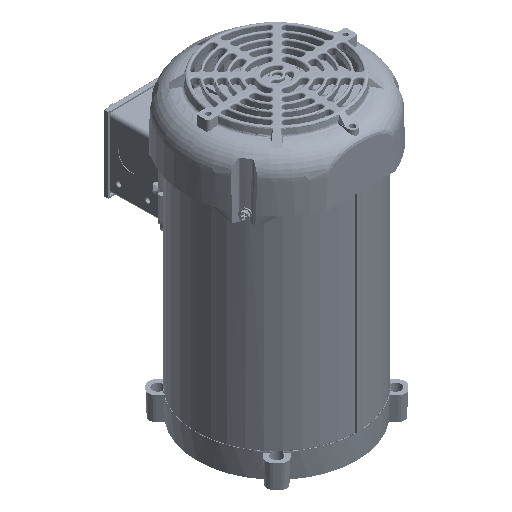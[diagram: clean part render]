
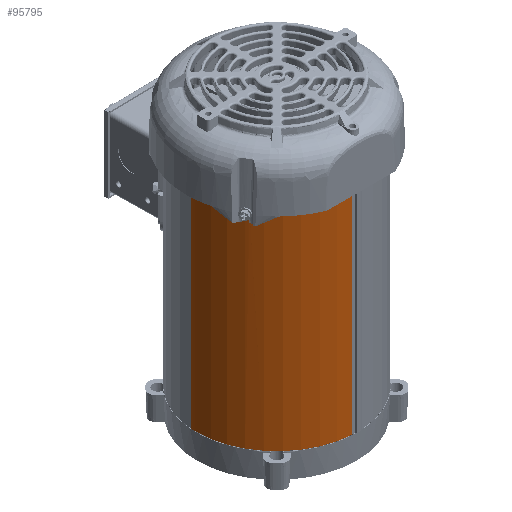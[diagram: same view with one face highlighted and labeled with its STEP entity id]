
A CAD part, isometric view. The second image highlights one B-rep face of the part: STEP entity #95795.
In plain terms, the highlighted cylindrical face has radius 71.369 mm (diameter 142.738 mm), a partial arc.
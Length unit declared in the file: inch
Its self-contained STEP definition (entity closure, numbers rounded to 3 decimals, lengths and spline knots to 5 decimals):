
#426 = CARTESIAN_POINT ( 'NONE',  ( -0.18377, -2.80378, 10.5216 ) ) ;
#2760 = VERTEX_POINT ( 'NONE', #102909 ) ;
#3604 = CARTESIAN_POINT ( 'NONE',  ( -2.80378, 0.18377, 2.9466 ) ) ;
#4349 = DIRECTION ( 'NONE',  ( -0.998, 0.065, 0. ) ) ;
#4501 = B_SPLINE_CURVE_WITH_KNOTS ( 'NONE', 3,
 ( #148445, #109347, #108766, #150237, #150849, #40261, #40845, #149656, #67325, #54732, #26966, #55320, #53537, #136420, #164074, #81688, #28139, #96672, #123192, #94288, #95502, #136983, #68486 ),
 .UNSPECIFIED., .F., .F.,
 ( 4, 2, 2, 2, 2, 2, 2, 1, 2, 2, 2, 4 ),
 ( 0., 0.0625, 0.09375, 0.125, 0.1875, 0.25, 0.3125, 0.34375, 0.35938, 0.375, 0.4375, 0.5 ),
 .UNSPECIFIED. ) ;
#6578 = CARTESIAN_POINT ( 'NONE',  ( 0., 0., 10.4266 ) ) ;
#8806 = DIRECTION ( 'NONE',  ( 0., 0., -1. ) ) ;
#9105 = AXIS2_PLACEMENT_3D ( 'NONE', #36179, #91494, #4349 ) ;
#9941 = CARTESIAN_POINT ( 'NONE',  ( -2.46288, -1.35248, 10.27384 ) ) ;
#11245 = VERTEX_POINT ( 'NONE', #146776 ) ;
#11753 = CARTESIAN_POINT ( 'NONE',  ( -2.41909, -1.42933, 10.2827 ) ) ;
#13509 = VERTEX_POINT ( 'NONE', #55822 ) ;
#20109 = VECTOR ( 'NONE', #138464, 39.37008 ) ;
#20783 = CARTESIAN_POINT ( 'NONE',  ( -2.46985, -1.33971, 10.24869 ) ) ;
#22793 = EDGE_CURVE ( 'NONE', #30298, #155535, #72752, .T. ) ;
#23123 = CARTESIAN_POINT ( 'NONE',  ( -2.40581, -1.45157, 10.2316 ) ) ;
#26490 = CIRCLE ( 'NONE', #96347, 2.8098 ) ;
#26966 = CARTESIAN_POINT ( 'NONE',  ( -2.43436, -1.40319, 10.16786 ) ) ;
#28139 = CARTESIAN_POINT ( 'NONE',  ( -2.45975, -1.35817, 10.18323 ) ) ;
#30298 = VERTEX_POINT ( 'NONE', #152128 ) ;
#35210 = CARTESIAN_POINT ( 'NONE',  ( -2.46658, -1.34573, 10.26364 ) ) ;
#36179 = CARTESIAN_POINT ( 'NONE',  ( 0., 0., 25.23668 ) ) ;
#40261 = CARTESIAN_POINT ( 'NONE',  ( -2.41263, -1.44021, 10.19276 ) ) ;
#40845 = CARTESIAN_POINT ( 'NONE',  ( -2.41411, -1.43773, 10.18941 ) ) ;
#41365 = EDGE_LOOP ( 'NONE', ( #66782, #63076 ) ) ;
#44132 = ORIENTED_EDGE ( 'NONE', *, *, #125567, .F. ) ;
#48076 = DIRECTION ( 'NONE',  ( 0., 0., -1. ) ) ;
#48266 = CARTESIAN_POINT ( 'NONE',  ( -2.80378, 0.18377, 10.4266 ) ) ;
#50686 = AXIS2_PLACEMENT_3D ( 'NONE', #6578, #48076, #114807 ) ;
#51460 = CARTESIAN_POINT ( 'NONE',  ( -2.44334, -1.3875, 10.29535 ) ) ;
#53102 = FACE_OUTER_BOUND ( 'NONE', #60165, .T. ) ;
#53205 = VERTEX_POINT ( 'NONE', #48266 ) ;
#53418 = DIRECTION ( 'NONE',  ( 0., 0., -1. ) ) ;
#53537 = CARTESIAN_POINT ( 'NONE',  ( -2.44738, -1.38036, 10.16938 ) ) ;
#54732 = CARTESIAN_POINT ( 'NONE',  ( -2.43023, -1.41032, 10.1694 ) ) ;
#55320 = CARTESIAN_POINT ( 'NONE',  ( -2.44328, -1.3876, 10.16786 ) ) ;
#55822 = CARTESIAN_POINT ( 'NONE',  ( -0.18377, -2.80378, 10.4266 ) ) ;
#60165 = EDGE_LOOP ( 'NONE', ( #154671, #87275, #92813, #119578, #143257, #44132 ) ) ;
#62319 = CARTESIAN_POINT ( 'NONE',  ( -2.47062, -1.33829, 10.24045 ) ) ;
#63076 = ORIENTED_EDGE ( 'NONE', *, *, #22793, .T. ) ;
#64098 = DIRECTION ( 'NONE',  ( 1., 0., 0. ) ) ;
#65848 = CARTESIAN_POINT ( 'NONE',  ( -2.45826, -1.36088, 10.28306 ) ) ;
#66782 = ORIENTED_EDGE ( 'NONE', *, *, #134259, .T. ) ;
#66833 = DIRECTION ( 'NONE',  ( 0., 0., 1. ) ) ;
#67325 = CARTESIAN_POINT ( 'NONE',  ( -2.42253, -1.42351, 10.17556 ) ) ;
#68486 = CARTESIAN_POINT ( 'NONE',  ( -2.47062, -1.3383, 10.23154 ) ) ;
#72752 = B_SPLINE_CURVE_WITH_KNOTS ( 'NONE', 3,
 ( #144626, #62319, #20783, #117581, #35210, #92266, #9941, #65848, #78442, #174607, #51460, #94012, #134947, #106074, #161996, #11753, #147554, #106656, #121735, #23123 ),
 .UNSPECIFIED., .F., .F.,
 ( 4, 2, 2, 2, 2, 2, 2, 2, 2, 4 ),
 ( 0.5, 0.5625, 0.59375, 0.625, 0.6875, 0.75, 0.8125, 0.84375, 0.875, 1. ),
 .UNSPECIFIED. ) ;
#73626 = VERTEX_POINT ( 'NONE', #3604 ) ;
#78442 = CARTESIAN_POINT ( 'NONE',  ( -2.45485, -1.36702, 10.28767 ) ) ;
#80025 = CARTESIAN_POINT ( 'NONE',  ( 0., 0., 2.9466 ) ) ;
#80978 = CYLINDRICAL_SURFACE ( 'NONE', #9105, 2.8098 ) ;
#81688 = CARTESIAN_POINT ( 'NONE',  ( -2.45814, -1.36108, 10.18056 ) ) ;
#83149 = CARTESIAN_POINT ( 'NONE',  ( -2.80378, 0.18377, 25.23668 ) ) ;
#83240 = AXIS2_PLACEMENT_3D ( 'NONE', #80025, #66833, #176172 ) ;
#87035 = AXIS2_PLACEMENT_3D ( 'NONE', #98939, #111618, #166946 ) ;
#87275 = ORIENTED_EDGE ( 'NONE', *, *, #137324, .T. ) ;
#89653 = VERTEX_POINT ( 'NONE', #155412 ) ;
#91352 = CIRCLE ( 'NONE', #87035, 2.8098 ) ;
#91494 = DIRECTION ( 'NONE',  ( 0., 0., -1. ) ) ;
#92266 = CARTESIAN_POINT ( 'NONE',  ( -2.46425, -1.34998, 10.27053 ) ) ;
#92813 = ORIENTED_EDGE ( 'NONE', *, *, #114013, .T. ) ;
#93300 = CARTESIAN_POINT ( 'NONE',  ( -2.40581, -1.45157, 10.2316 ) ) ;
#94012 = CARTESIAN_POINT ( 'NONE',  ( -2.43444, -1.40306, 10.29535 ) ) ;
#94288 = CARTESIAN_POINT ( 'NONE',  ( -2.46674, -1.34543, 10.19937 ) ) ;
#95502 = CARTESIAN_POINT ( 'NONE',  ( -2.46984, -1.33973, 10.21448 ) ) ;
#95795 = ADVANCED_FACE ( 'NONE', ( #117564, #53102 ), #80978, .T. ) ;
#96347 = AXIS2_PLACEMENT_3D ( 'NONE', #146422, #8806, #64098 ) ;
#96672 = CARTESIAN_POINT ( 'NONE',  ( -2.46051, -1.35678, 10.18462 ) ) ;
#98092 = CIRCLE ( 'NONE', #83240, 2.8098 ) ;
#98939 = CARTESIAN_POINT ( 'NONE',  ( 0., 0., 2.9466 ) ) ;
#102909 = CARTESIAN_POINT ( 'NONE',  ( -0.18377, -2.80378, 2.9466 ) ) ;
#103294 = LINE ( 'NONE', #426, #169929 ) ;
#106074 = CARTESIAN_POINT ( 'NONE',  ( -2.42449, -1.42015, 10.28922 ) ) ;
#106656 = CARTESIAN_POINT ( 'NONE',  ( -2.40921, -1.44598, 10.26451 ) ) ;
#107519 = CIRCLE ( 'NONE', #50686, 2.8098 ) ;
#108766 = CARTESIAN_POINT ( 'NONE',  ( -2.40661, -1.45024, 10.2146 ) ) ;
#109347 = CARTESIAN_POINT ( 'NONE',  ( -2.40579, -1.4516, 10.22278 ) ) ;
#111618 = DIRECTION ( 'NONE',  ( 0., 0., 1. ) ) ;
#113468 = EDGE_CURVE ( 'NONE', #89653, #2760, #91352, .T. ) ;
#114013 = EDGE_CURVE ( 'NONE', #53205, #73626, #166437, .T. ) ;
#114807 = DIRECTION ( 'NONE',  ( 1., 0., 0. ) ) ;
#117413 = EDGE_CURVE ( 'NONE', #13509, #11245, #107519, .T. ) ;
#117564 = FACE_BOUND ( 'NONE', #41365, .T. ) ;
#117581 = CARTESIAN_POINT ( 'NONE',  ( -2.46754, -1.34396, 10.26003 ) ) ;
#119578 = ORIENTED_EDGE ( 'NONE', *, *, #133385, .T. ) ;
#121735 = CARTESIAN_POINT ( 'NONE',  ( -2.40584, -1.45151, 10.24939 ) ) ;
#123192 = CARTESIAN_POINT ( 'NONE',  ( -2.46442, -1.34969, 10.19246 ) ) ;
#125567 = EDGE_CURVE ( 'NONE', #13509, #2760, #103294, .T. ) ;
#133385 = EDGE_CURVE ( 'NONE', #73626, #89653, #98092, .T. ) ;
#134259 = EDGE_CURVE ( 'NONE', #155535, #30298, #4501, .T. ) ;
#134947 = CARTESIAN_POINT ( 'NONE',  ( -2.43028, -1.41024, 10.29381 ) ) ;
#136420 = CARTESIAN_POINT ( 'NONE',  ( -2.45299, -1.37035, 10.17397 ) ) ;
#136983 = CARTESIAN_POINT ( 'NONE',  ( -2.47061, -1.3383, 10.22262 ) ) ;
#137324 = EDGE_CURVE ( 'NONE', #11245, #53205, #26490, .T. ) ;
#138464 = DIRECTION ( 'NONE',  ( 0., 0., -1. ) ) ;
#143257 = ORIENTED_EDGE ( 'NONE', *, *, #113468, .T. ) ;
#144626 = CARTESIAN_POINT ( 'NONE',  ( -2.47062, -1.3383, 10.23154 ) ) ;
#146422 = CARTESIAN_POINT ( 'NONE',  ( 0., 0., 10.4266 ) ) ;
#146776 = CARTESIAN_POINT ( 'NONE',  ( -2.8098, 0., 10.4266 ) ) ;
#147554 = CARTESIAN_POINT ( 'NONE',  ( -2.41742, -1.43215, 10.28007 ) ) ;
#148445 = CARTESIAN_POINT ( 'NONE',  ( -2.40581, -1.45157, 10.2316 ) ) ;
#149656 = CARTESIAN_POINT ( 'NONE',  ( -2.41897, -1.42954, 10.18018 ) ) ;
#150237 = CARTESIAN_POINT ( 'NONE',  ( -2.4091, -1.4461, 10.20328 ) ) ;
#150849 = CARTESIAN_POINT ( 'NONE',  ( -2.41014, -1.44437, 10.19967 ) ) ;
#152128 = CARTESIAN_POINT ( 'NONE',  ( -2.47062, -1.3383, 10.23154 ) ) ;
#154671 = ORIENTED_EDGE ( 'NONE', *, *, #117413, .T. ) ;
#155412 = CARTESIAN_POINT ( 'NONE',  ( -2.8098, 0., 2.9466 ) ) ;
#155535 = VERTEX_POINT ( 'NONE', #93300 ) ;
#161996 = CARTESIAN_POINT ( 'NONE',  ( -2.42264, -1.4233, 10.2873 ) ) ;
#164074 = CARTESIAN_POINT ( 'NONE',  ( -2.45566, -1.36555, 10.17683 ) ) ;
#166437 = LINE ( 'NONE', #83149, #20109 ) ;
#166946 = DIRECTION ( 'NONE',  ( -1., 0., 0. ) ) ;
#169929 = VECTOR ( 'NONE', #53418, 39.37008 ) ;
#174607 = CARTESIAN_POINT ( 'NONE',  ( -2.44738, -1.38035, 10.29382 ) ) ;
#176172 = DIRECTION ( 'NONE',  ( -1., 0., 0. ) ) ;
